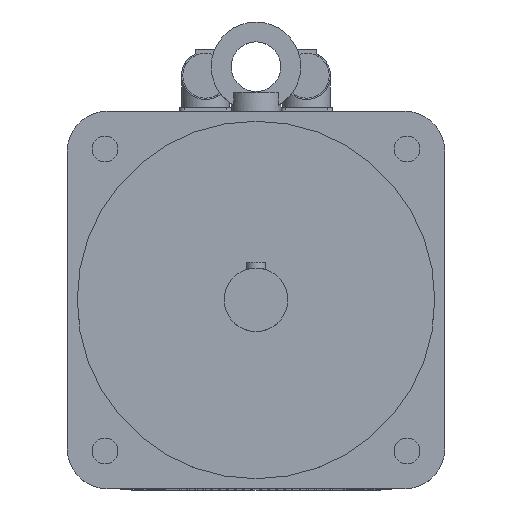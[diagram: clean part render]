
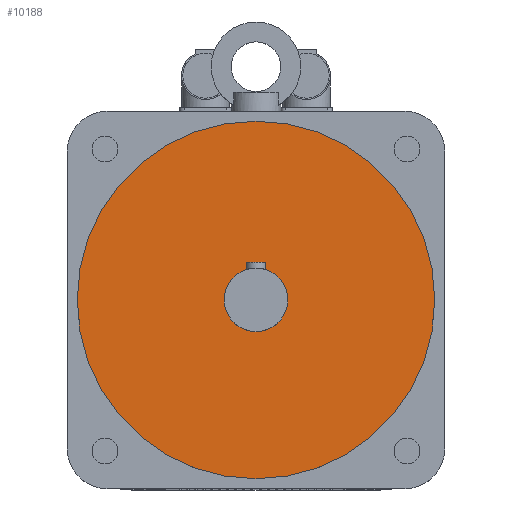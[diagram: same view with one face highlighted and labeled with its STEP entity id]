
A CAD part, top view. The second image highlights one B-rep face of the part: STEP entity #10188.
In plain terms, the highlighted planar face has unit normal (0, 0, 1).
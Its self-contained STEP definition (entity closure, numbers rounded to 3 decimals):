
#208=FACE_BOUND('',#973,.T.);
#290=FACE_OUTER_BOUND('',#972,.T.);
#972=EDGE_LOOP('',(#7169));
#973=EDGE_LOOP('',(#7170));
#1611=CIRCLE('',#10835,16.);
#1612=CIRCLE('',#10837,90.);
#4590=VERTEX_POINT('',#15520);
#4591=VERTEX_POINT('',#15523);
#5600=EDGE_CURVE('',#4590,#4590,#1611,.T.);
#5601=EDGE_CURVE('',#4591,#4591,#1612,.T.);
#7169=ORIENTED_EDGE('',*,*,#5601,.F.);
#7170=ORIENTED_EDGE('',*,*,#5600,.T.);
#9671=PLANE('',#10836);
#10188=ADVANCED_FACE('',(#290,#208),#9671,.T.);
#10835=AXIS2_PLACEMENT_3D('',#15521,#12180,#12181);
#10836=AXIS2_PLACEMENT_3D('',#15522,#12182,#12183);
#10837=AXIS2_PLACEMENT_3D('',#15524,#12184,#12185);
#12180=DIRECTION('center_axis',(0.,0.,-1.));
#12181=DIRECTION('ref_axis',(1.,0.,0.));
#12182=DIRECTION('center_axis',(0.,0.,1.));
#12183=DIRECTION('ref_axis',(1.,0.,0.));
#12184=DIRECTION('center_axis',(0.,0.,-1.));
#12185=DIRECTION('ref_axis',(1.,0.,0.));
#15520=CARTESIAN_POINT('',(0.,16.,347.));
#15521=CARTESIAN_POINT('Origin',(0.,0.,347.));
#15522=CARTESIAN_POINT('Origin',(0.,90.,347.));
#15523=CARTESIAN_POINT('',(0.,90.,347.));
#15524=CARTESIAN_POINT('Origin',(0.,0.,347.));
